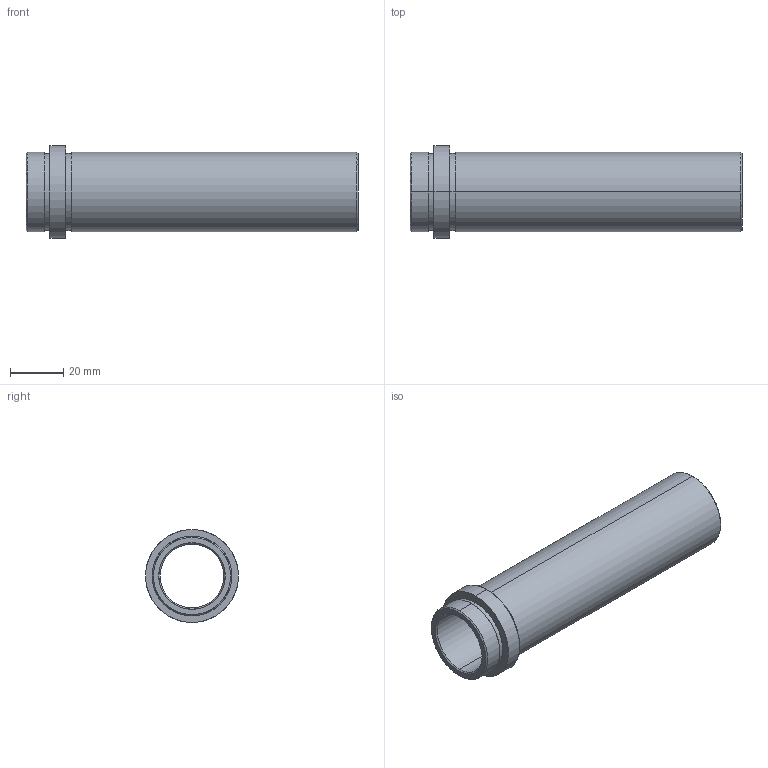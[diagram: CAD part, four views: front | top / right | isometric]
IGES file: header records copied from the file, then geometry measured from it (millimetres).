
Start section: SolidWorks IGES FILE using analytic representation for surfaces
Global section: file name: D:\zzzzz\Delta\D21\24\D21 - 24x116.IGS; native system: SolidWorks 2004 by SolidWorks Corporation; preprocessor: Version 5.3; author: Hkn; date: 080326.192828; units: millimetre
Bounding box: 125 x 35 x 35 mm (x, y, z)
Surface area: 22392.8 mm2 (no closed solid volume)
Topology: 0 solids, 0 shells, 26 faces, 784 edges, 784 vertices
Faces by surface type: revolution 20, bspline 6
